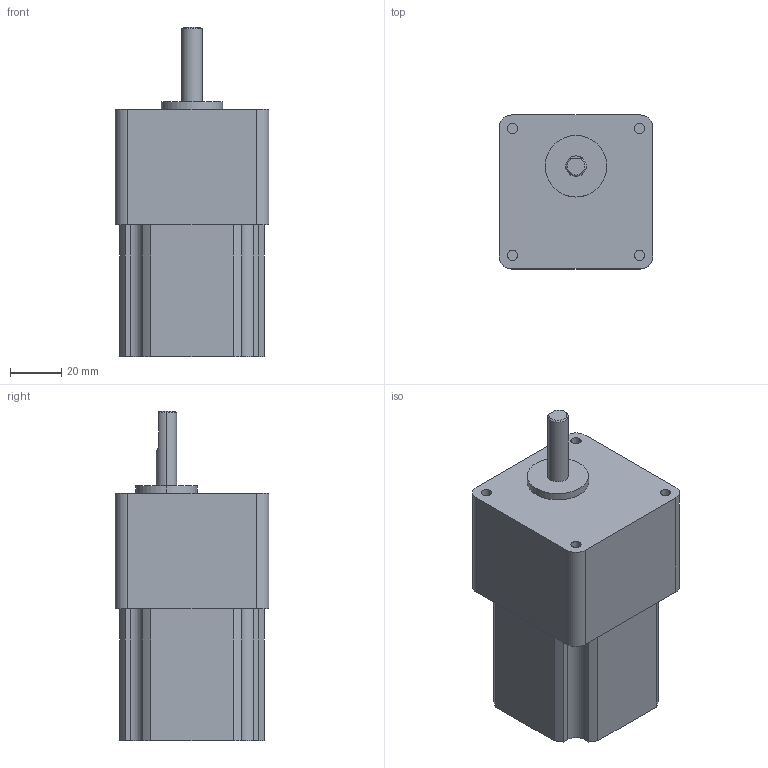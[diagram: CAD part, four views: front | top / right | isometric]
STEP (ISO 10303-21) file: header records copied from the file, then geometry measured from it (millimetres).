
FILE_DESCRIPTION (( 'STEP AP203' ), '1' );
FILE_NAME ('PMSB-B56D1ESD_3D.STEP', '2020-12-07T06:26:22', ( '' ), ( '' ), 'SwSTEP 2.0', 'SolidWorks 2018', '' );
FILE_SCHEMA (( 'CONFIG_CONTROL_DESIGN' ));
Length unit declared in the file: millimetre
Products named in the file (1): PMSB-B56D1ESD_3D
Bounding box: 60 x 60 x 128.4 mm (x, y, z)
Volume: 310371.4 mm3; surface area: 29508.4 mm2
Topology: 1 solids, 1 shells, 58 faces, 145 edges, 96 vertices
Faces by surface type: cylinder 29, plane 26, cone 3
Entity records: 1859 total; most frequent: CARTESIAN_POINT 335, DIRECTION 320, ORIENTED_EDGE 290, EDGE_CURVE 145, AXIS2_PLACEMENT_3D 119, VERTEX_POINT 96, LINE 82, VECTOR 82
